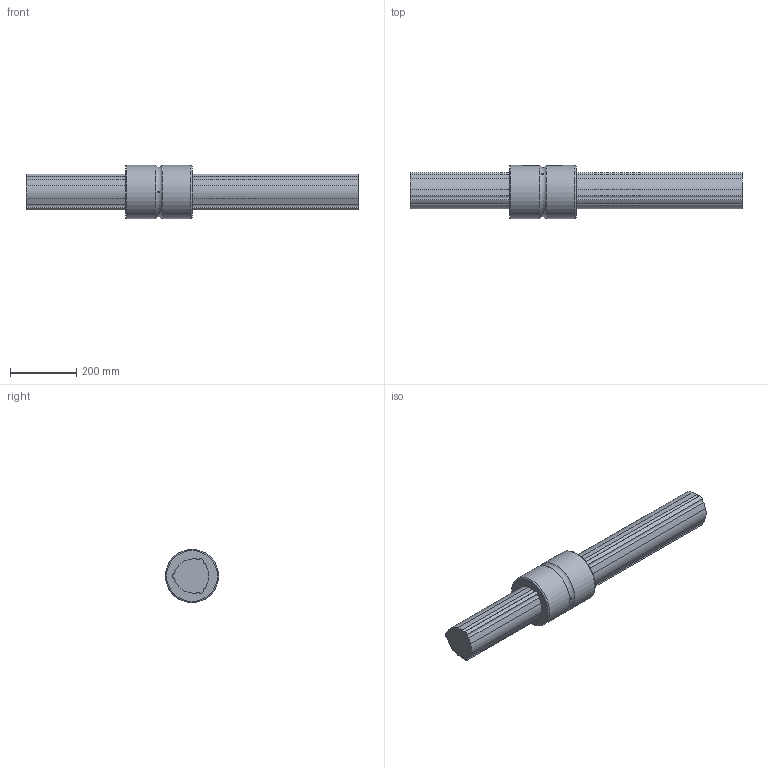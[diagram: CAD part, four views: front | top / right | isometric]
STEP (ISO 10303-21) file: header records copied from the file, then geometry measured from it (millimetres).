
FILE_DESCRIPTION(/* description */ ('STEP AP214'),/* implementation_level */ '2;1');
FILE_NAME(/* name */ 'LBST120+1000L(2003000)',/* time_stamp */ '2024-09-04T12:58:11+02:00',/* author */ ('License CC BY-ND 4.0'),/* organization */ ('CADENAS'),/* preprocessor_version */ 'ST-DEVELOPER v19.3',/* originating_system */ 'PARTsolutions',/* authorisation */ ' ');
FILE_SCHEMA (('AUTOMOTIVE_DESIGN {1 0 10303 214 3 1 1}'));
Length unit declared in the file: millimetre
Products named in the file (3): LBST120+1000L(2003000); LBST12011000 Spline Shaft; LBST120 Nut
Assembly tree (2 placements, depth 2):
  LBST120+1000L(2003000)
    LBST12011000 Spline Shaft
    LBST120 Nut
Bounding box: 1000 x 160 x 160 mm (x, y, z)
Volume: 10843357.9 mm3; surface area: 567118.7 mm2
Topology: 3 solids, 3 shells, 57 faces, 148 edges, 99 vertices
Faces by surface type: cylinder 31, plane 22, torus 4
Full cylindrical faces by diameter (mm): 6 x3, 160 x2
Entity records: 1810 total; most frequent: CARTESIAN_POINT 355, DIRECTION 306, ORIENTED_EDGE 272, EDGE_CURVE 136, AXIS2_PLACEMENT_3D 118, VERTEX_POINT 94, LINE 70, VECTOR 70
